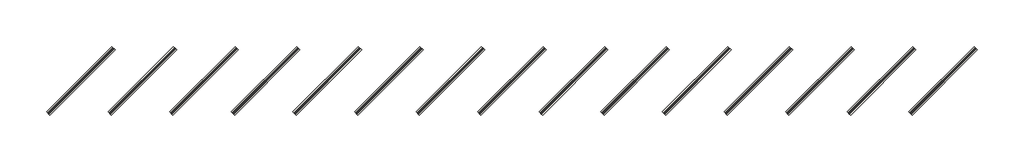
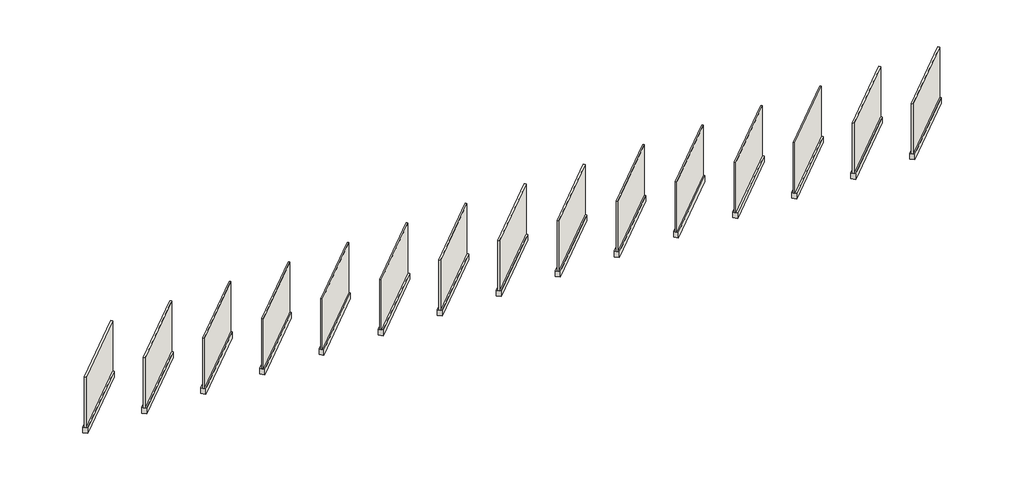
# One storey: 30 walls.
"""IFC4 building model written with IfcOpenShell, lengths in millimetres."""

from ifc_helpers import new_model, si_unit, frame, origin, origin_with_axes, place, context, project, spatial, polyline, outline, extrude, element, save

model = new_model("IFC4")

# Units and contexts
model_context = context("Model", 3, world=origin())
ifc_project = project(units=[si_unit("LENGTHUNIT", "METRE", prefix="MILLI")], contexts=[model_context])

# Site, building, storey
site = spatial("IfcSite", under=ifc_project)
building = spatial("IfcBuilding", under=site)
storey = spatial("IfcBuildingStorey", under=building, Name="Laytite Pioneer Stone", Elevation=0.0)

# Walls
placement = place(None, origin())
element("IfcWall", 1, ObjectType="Wisconsin_Laytite", at=placement, inside=storey, context=model_context, shape_type="SweptSolid", body=[
    extrude(outline(polyline([(-19819.4654192, 8506.1818358), (-23052.3576228, 5273.2896322), (-23106.2391595, 5327.1711689), (-19873.3469559, 8560.0633725), (-19819.4654192, 8506.1818358)])), frame((0.0, 0.0, 304.8), z_axis=(0.0, 0.0, 1.0), x_axis=(1.0, 0.0, 0.0)), (0.0, 0.0, 1.0), 2743.2),
])
element("IfcWall", 2, ObjectType="Aspen_Laytite", at=placement, inside=storey, context=model_context, shape_type="SweptSolid", body=[
    extrude(outline(polyline([(-16771.4654192, 8506.1818358), (-20004.3576228, 5273.2896322), (-20058.2391595, 5327.1711689), (-16825.3469559, 8560.0633725), (-16771.4654192, 8506.1818358)])), frame((0.0, 0.0, 304.8), z_axis=(0.0, 0.0, 1.0), x_axis=(1.0, 0.0, 0.0)), (0.0, 0.0, 1.0), 2743.2),
])
element("IfcWall", 3, ObjectType="Bucks Creek_Laytite", at=placement, inside=storey, context=model_context, shape_type="SweptSolid", body=[
    extrude(outline(polyline([(-13723.4654192, 8506.1818358), (-16956.3576228, 5273.2896322), (-17010.2391595, 5327.1711689), (-13777.3469559, 8560.0633725), (-13723.4654192, 8506.1818358)])), frame((0.0, 0.0, 304.8), z_axis=(0.0, 0.0, 1.0), x_axis=(1.0, 0.0, 0.0)), (0.0, 0.0, 1.0), 2743.2),
])
element("IfcWall", 4, ObjectType="Dark Mist_Laytite", at=placement, inside=storey, context=model_context, shape_type="SweptSolid", body=[
    extrude(outline(polyline([(-10675.4654192, 8506.1818358), (-13908.3576228, 5273.2896322), (-13962.2391595, 5327.1711689), (-10729.3469559, 8560.0633725), (-10675.4654192, 8506.1818358)])), frame((0.0, 0.0, 304.8), z_axis=(0.0, 0.0, 1.0), x_axis=(1.0, 0.0, 0.0)), (0.0, 0.0, 1.0), 2743.2),
])
element("IfcWall", 5, ObjectType="Fawn River_Laytite", at=placement, inside=storey, context=model_context, shape_type="SweptSolid", body=[
    extrude(outline(polyline([(-7627.4654192, 8506.1818358), (-10860.3576228, 5273.2896322), (-10914.2391595, 5327.1711689), (-7681.3469559, 8560.0633725), (-7627.4654192, 8506.1818358)])), frame((0.0, 0.0, 304.8), z_axis=(0.0, 0.0, 1.0), x_axis=(1.0, 0.0, 0.0)), (0.0, 0.0, 1.0), 2743.2),
])
element("IfcWall", 6, ObjectType="Flatwood_Laytite", at=placement, inside=storey, context=model_context, shape_type="SweptSolid", body=[
    extrude(outline(polyline([(-4579.4654192, 8506.1818358), (-7812.3576228, 5273.2896322), (-7866.2391595, 5327.1711689), (-4633.3469559, 8560.0633725), (-4579.4654192, 8506.1818358)])), frame((0.0, 0.0, 304.8), z_axis=(0.0, 0.0, 1.0), x_axis=(1.0, 0.0, 0.0)), (0.0, 0.0, 1.0), 2743.2),
])
element("IfcWall", 7, ObjectType="Iron_Laytite", at=placement, inside=storey, context=model_context, shape_type="SweptSolid", body=[
    extrude(outline(polyline([(-1531.4654192, 8506.1818358), (-4764.3576228, 5273.2896322), (-4818.2391595, 5327.1711689), (-1585.3469559, 8560.0633725), (-1531.4654192, 8506.1818358)])), frame((0.0, 0.0, 304.8), z_axis=(0.0, 0.0, 1.0), x_axis=(1.0, 0.0, 0.0)), (0.0, 0.0, 1.0), 2743.2),
])
element("IfcWall", 8, ObjectType="Karmel_Laytite", at=placement, inside=storey, context=model_context, shape_type="SweptSolid", body=[
    extrude(outline(polyline([(1516.5345808, 8506.1818358), (-1716.3576228, 5273.2896322), (-1770.2391595, 5327.1711689), (1462.6530441, 8560.0633725), (1516.5345808, 8506.1818358)])), frame((0.0, 0.0, 304.8), z_axis=(0.0, 0.0, 1.0), x_axis=(1.0, 0.0, 0.0)), (0.0, 0.0, 1.0), 2743.2),
])
element("IfcWall", 9, ObjectType="Mojave_Laytite", at=placement, inside=storey, context=model_context, shape_type="SweptSolid", body=[
    extrude(outline(polyline([(4564.5345808, 8506.1818358), (1331.6423772, 5273.2896322), (1277.7608405, 5327.1711689), (4510.6530441, 8560.0633725), (4564.5345808, 8506.1818358)])), frame((0.0, 0.0, 304.8), z_axis=(0.0, 0.0, 1.0), x_axis=(1.0, 0.0, 0.0)), (0.0, 0.0, 1.0), 2743.2),
])
element("IfcWall", 10, ObjectType="Nappanee_Laytite", at=placement, inside=storey, context=model_context, shape_type="SweptSolid", body=[
    extrude(outline(polyline([(7612.5345808, 8506.1818358), (4379.6423772, 5273.2896322), (4325.7608405, 5327.1711689), (7558.6530441, 8560.0633725), (7612.5345808, 8506.1818358)])), frame((0.0, 0.0, 304.8), z_axis=(0.0, 0.0, 1.0), x_axis=(1.0, 0.0, 0.0)), (0.0, 0.0, 1.0), 2743.2),
])
element("IfcWall", 11, ObjectType="Sedona_Laytite", at=placement, inside=storey, context=model_context, shape_type="SweptSolid", body=[
    extrude(outline(polyline([(10660.5345808, 8506.1818358), (7427.6423772, 5273.2896322), (7373.7608405, 5327.1711689), (10606.6530441, 8560.0633725), (10660.5345808, 8506.1818358)])), frame((0.0, 0.0, 304.8), z_axis=(0.0, 0.0, 1.0), x_axis=(1.0, 0.0, 0.0)), (0.0, 0.0, 1.0), 2743.2),
])
element("IfcWall", 12, ObjectType="Slate_Laytite", at=placement, inside=storey, context=model_context, shape_type="SweptSolid", body=[
    extrude(outline(polyline([(13708.5345808, 8506.1818358), (10475.6423772, 5273.2896322), (10421.7608405, 5327.1711689), (13654.6530441, 8560.0633725), (13708.5345808, 8506.1818358)])), frame((0.0, 0.0, 304.8), z_axis=(0.0, 0.0, 1.0), x_axis=(1.0, 0.0, 0.0)), (0.0, 0.0, 1.0), 2743.2),
])
element("IfcWall", 13, ObjectType="Southern Limestone_Laytite", at=placement, inside=storey, context=model_context, shape_type="SweptSolid", body=[
    extrude(outline(polyline([(16756.5345808, 8506.1818358), (13523.6423772, 5273.2896322), (13469.7608405, 5327.1711689), (16702.6530441, 8560.0633725), (16756.5345808, 8506.1818358)])), frame((0.0, 0.0, 304.8), z_axis=(0.0, 0.0, 1.0), x_axis=(1.0, 0.0, 0.0)), (0.0, 0.0, 1.0), 2743.2),
])
element("IfcWall", 14, ObjectType="Timbercreek_Laytite", at=placement, inside=storey, context=model_context, shape_type="SweptSolid", body=[
    extrude(outline(polyline([(19804.5345808, 8506.1818358), (16571.6423772, 5273.2896322), (16517.7608405, 5327.1711689), (19750.6530441, 8560.0633725), (19804.5345808, 8506.1818358)])), frame((0.0, 0.0, 304.8), z_axis=(0.0, 0.0, 1.0), x_axis=(1.0, 0.0, 0.0)), (0.0, 0.0, 1.0), 2743.2),
])
element("IfcWall", 15, ObjectType="Wisconsin_Laytite", at=placement, inside=storey, context=model_context, shape_type="SweptSolid", body=[
    extrude(outline(polyline([(22852.5345808, 8506.1818358), (19619.6423772, 5273.2896322), (19565.7608405, 5327.1711689), (22798.6530441, 8560.0633725), (22852.5345808, 8506.1818358)])), frame((0.0, 0.0, 304.8), z_axis=(0.0, 0.0, 1.0), x_axis=(1.0, 0.0, 0.0)), (0.0, 0.0, 1.0), 2743.2),
])
element("IfcWall", 16, ObjectType="Generic 9\"", at=placement, inside=storey, context=model_context, shape_type="SweptSolid", body=[
    extrude(outline(polyline([(-19765.5838825, 8452.3002991), (-22998.4760861, 5219.4080955), (-23160.1206962, 5381.0527057), (-19927.2284927, 8613.9449092), (-19765.5838825, 8452.3002991)])), origin_with_axes(), (0.0, 0.0, 1.0), 304.8),
])
element("IfcWall", 17, ObjectType="Generic 9\"", at=placement, inside=storey, context=model_context, shape_type="SweptSolid", body=[
    extrude(outline(polyline([(-16717.5838825, 8452.3002991), (-19950.4760861, 5219.4080955), (-20112.1206962, 5381.0527057), (-16879.2284927, 8613.9449092), (-16717.5838825, 8452.3002991)])), origin_with_axes(), (0.0, 0.0, 1.0), 304.8),
])
element("IfcWall", 18, ObjectType="Generic 9\"", at=placement, inside=storey, context=model_context, shape_type="SweptSolid", body=[
    extrude(outline(polyline([(-13669.5838825, 8452.3002991), (-16902.4760861, 5219.4080955), (-17064.1206962, 5381.0527057), (-13831.2284927, 8613.9449092), (-13669.5838825, 8452.3002991)])), origin_with_axes(), (0.0, 0.0, 1.0), 304.8),
])
element("IfcWall", 19, ObjectType="Generic 9\"", at=placement, inside=storey, context=model_context, shape_type="SweptSolid", body=[
    extrude(outline(polyline([(-10621.5838825, 8452.3002991), (-13854.4760861, 5219.4080955), (-14016.1206962, 5381.0527057), (-10783.2284927, 8613.9449092), (-10621.5838825, 8452.3002991)])), origin_with_axes(), (0.0, 0.0, 1.0), 304.8),
])
element("IfcWall", 20, ObjectType="Generic 9\"", at=placement, inside=storey, context=model_context, shape_type="SweptSolid", body=[
    extrude(outline(polyline([(-7573.5838825, 8452.3002991), (-10806.4760861, 5219.4080955), (-10968.1206962, 5381.0527057), (-7735.2284927, 8613.9449092), (-7573.5838825, 8452.3002991)])), origin_with_axes(), (0.0, 0.0, 1.0), 304.8),
])
element("IfcWall", 21, ObjectType="Generic 9\"", at=placement, inside=storey, context=model_context, shape_type="SweptSolid", body=[
    extrude(outline(polyline([(-4525.5838825, 8452.3002991), (-7758.4760861, 5219.4080955), (-7920.1206962, 5381.0527057), (-4687.2284927, 8613.9449092), (-4525.5838825, 8452.3002991)])), origin_with_axes(), (0.0, 0.0, 1.0), 304.8),
])
element("IfcWall", 22, ObjectType="Generic 9\"", at=placement, inside=storey, context=model_context, shape_type="SweptSolid", body=[
    extrude(outline(polyline([(-1477.5838825, 8452.3002991), (-4710.4760861, 5219.4080955), (-4872.1206962, 5381.0527057), (-1639.2284927, 8613.9449092), (-1477.5838825, 8452.3002991)])), origin_with_axes(), (0.0, 0.0, 1.0), 304.8),
])
element("IfcWall", 23, ObjectType="Generic 9\"", at=placement, inside=storey, context=model_context, shape_type="SweptSolid", body=[
    extrude(outline(polyline([(1570.4161175, 8452.3002991), (-1662.4760861, 5219.4080955), (-1824.1206962, 5381.0527057), (1408.7715073, 8613.9449092), (1570.4161175, 8452.3002991)])), origin_with_axes(), (0.0, 0.0, 1.0), 304.8),
])
element("IfcWall", 24, ObjectType="Generic 9\"", at=placement, inside=storey, context=model_context, shape_type="SweptSolid", body=[
    extrude(outline(polyline([(4618.4161175, 8452.3002991), (1385.5239139, 5219.4080955), (1223.8793038, 5381.0527057), (4456.7715073, 8613.9449092), (4618.4161175, 8452.3002991)])), origin_with_axes(), (0.0, 0.0, 1.0), 304.8),
])
element("IfcWall", 25, ObjectType="Generic 9\"", at=placement, inside=storey, context=model_context, shape_type="SweptSolid", body=[
    extrude(outline(polyline([(7666.4161175, 8452.3002991), (4433.5239139, 5219.4080955), (4271.8793038, 5381.0527057), (7504.7715073, 8613.9449092), (7666.4161175, 8452.3002991)])), origin_with_axes(), (0.0, 0.0, 1.0), 304.8),
])
element("IfcWall", 26, ObjectType="Generic 9\"", at=placement, inside=storey, context=model_context, shape_type="SweptSolid", body=[
    extrude(outline(polyline([(10714.4161175, 8452.3002991), (7481.5239139, 5219.4080955), (7319.8793038, 5381.0527057), (10552.7715073, 8613.9449092), (10714.4161175, 8452.3002991)])), origin_with_axes(), (0.0, 0.0, 1.0), 304.8),
])
element("IfcWall", 27, ObjectType="Generic 9\"", at=placement, inside=storey, context=model_context, shape_type="SweptSolid", body=[
    extrude(outline(polyline([(13762.4161175, 8452.3002991), (10529.5239139, 5219.4080955), (10367.8793038, 5381.0527057), (13600.7715073, 8613.9449092), (13762.4161175, 8452.3002991)])), origin_with_axes(), (0.0, 0.0, 1.0), 304.8),
])
element("IfcWall", 28, ObjectType="Generic 9\"", at=placement, inside=storey, context=model_context, shape_type="SweptSolid", body=[
    extrude(outline(polyline([(16810.4161175, 8452.3002991), (13577.5239139, 5219.4080955), (13415.8793038, 5381.0527057), (16648.7715073, 8613.9449092), (16810.4161175, 8452.3002991)])), origin_with_axes(), (0.0, 0.0, 1.0), 304.8),
])
element("IfcWall", 29, ObjectType="Generic 9\"", at=placement, inside=storey, context=model_context, shape_type="SweptSolid", body=[
    extrude(outline(polyline([(19858.4161175, 8452.3002991), (16625.5239139, 5219.4080955), (16463.8793038, 5381.0527057), (19696.7715073, 8613.9449092), (19858.4161175, 8452.3002991)])), origin_with_axes(), (0.0, 0.0, 1.0), 304.8),
])
element("IfcWall", 30, ObjectType="Generic 9\"", at=placement, inside=storey, context=model_context, shape_type="SweptSolid", body=[
    extrude(outline(polyline([(22906.4161175, 8452.3002991), (19673.5239139, 5219.4080955), (19511.8793038, 5381.0527057), (22744.7715073, 8613.9449092), (22906.4161175, 8452.3002991)])), origin_with_axes(), (0.0, 0.0, 1.0), 304.8),
])

save(model, "model.ifc")
